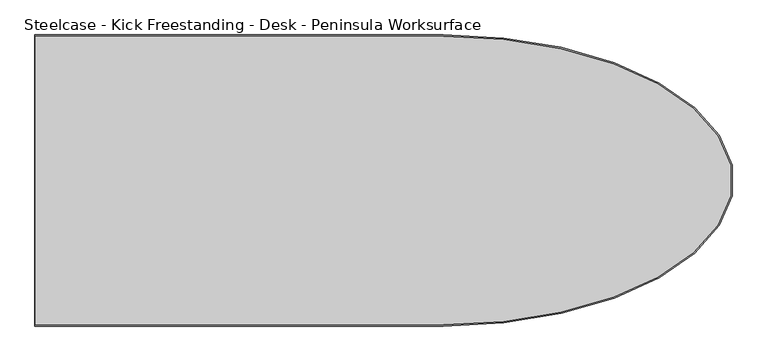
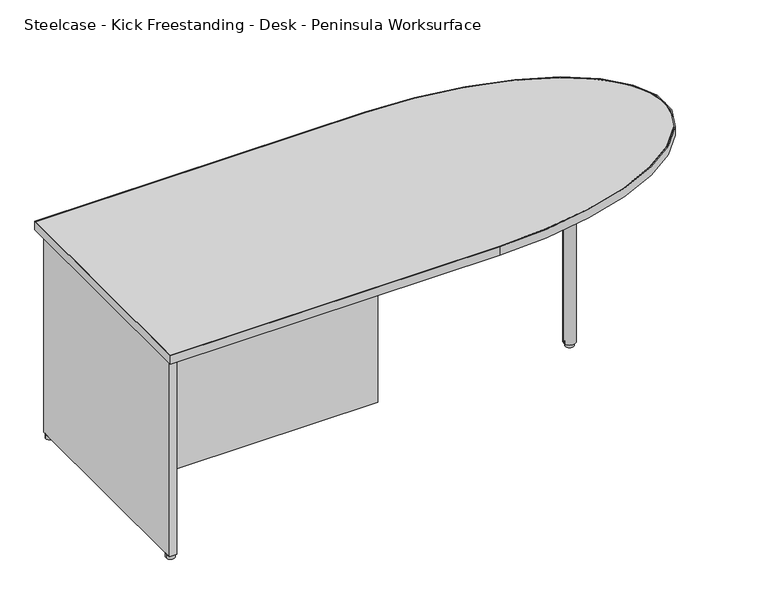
"""IFC4 building model written with IfcOpenShell, lengths in millimetres: furniture geometry, Steelcase - Kick Freestanding - Desk - Peninsula Worksurface : 30D x 72W - Full Panel."""

from ifc_helpers import new_model, si_unit, point, frame, frame_2d, origin, origin_with_axes, place, context, project, spatial, polyline, circle_curve, ellipse_curve, trimmed, segment, composite_curve, outline, extrude, source, transform, mapped, element, save
from ifc_brep_helpers import plane_surface, extruded_surface, advanced_brep


def steelcase_kick_freestanding_desk_peninsula_worksurface_40ddbeb0(model_context):
    return source(origin(), model_context, "Body", "SolidModel", [
        extrude(outline(polyline([(3680.0298423, -802.0909301), (3805.7534455, -927.8145152), (3680.0298786, -1053.5381002), (3554.3062754, -927.8145152), (3680.0298423, -802.0909301)])), frame((0.0, 0.0, 678.688), z_axis=(0.0, 0.0, 1.0), x_axis=(1.0, 0.0, 0.0)), (0.0, 0.0, 1.0), 16.256),
        advanced_brep(
        [(2163.8594425, -1308.8145152, 723.9), (3233.0978111, -1308.8145152, 723.9), (3233.0978111, -546.8145152, 723.9), (2163.8594425, -546.8145152, 723.9), (3233.0978111, -549.7863152, 723.9), (3233.0978111, -1305.8427489, 723.9), (2164.8500425, -1305.8427489, 723.9), (2164.8500425, -549.7863152, 723.9), (2163.8594425, -1308.8145152, 694.944), (2163.8594425, -546.8145152, 694.944), (3233.0978111, -546.8145152, 694.944), (3233.0978111, -1308.8145152, 694.944), (3233.0978111, -549.7863152, 694.944), (2164.8500425, -549.7863152, 694.944), (2164.8500425, -1305.8427489, 694.944), (3233.0978111, -1305.8427489, 694.944)],
        [
            (0, 1),
            (1, 2, ellipse_curve(frame((3233.0978111, -927.8145152, 723.9), z_axis=(0.0, 0.0, 1.0), x_axis=(-1.0, 0.0, 0.0)), 759.727071, 381.0)),
            (2, 3),
            (3, 0),
            (4, 5, ellipse_curve(frame((3233.0978111, -927.8145321, 723.9), z_axis=(0.0, 0.0, -1.0), x_axis=(1.0, 0.0, 0.0)), 755.65, 378.0282168)),
            (5, 6),
            (6, 7),
            (7, 4),
            (8, 9),
            (9, 10),
            (10, 11, ellipse_curve(frame((3233.0978111, -927.8145152, 694.944), z_axis=(0.0, 0.0, -1.0), x_axis=(0.0, 1.0, 0.0)), 381.0, 759.727071)),
            (11, 8),
            (12, 13),
            (13, 14),
            (14, 15),
            (15, 12, ellipse_curve(frame((3233.0978111, -927.8145321, 694.944), z_axis=(0.0, 0.0, 1.0), x_axis=(1.0, 0.0, 0.0)), 755.65, 378.0282168)),
            (0, 8),
            (11, 1),
            (10, 2),
            (9, 3),
            (4, 12),
            (15, 5),
            (14, 6),
            (13, 7),
        ],
        [
            plane_surface(frame((2163.8594425, -1308.8145152, 723.9), z_axis=(0.0, 0.0, 1.0), x_axis=(1.0, 0.0, 0.0))),
            plane_surface(frame((2163.8594425, -1308.8145152, 694.944), z_axis=(0.0, 0.0, -1.0), x_axis=(-1.0, 0.0, 0.0))),
            plane_surface(frame((2163.8594425, -1308.8145152, 723.9), z_axis=(0.0, -1.0, 0.0), x_axis=(0.0, 0.0, -1.0))),
            extruded_surface(trimmed(ellipse_curve(frame((3233.0978111, -927.8145152, 665.988), z_axis=(0.0, 0.0, 1.0), x_axis=(0.0, 1.0, 0.0)), 381.0, 759.727071), [point((3233.0978111, -1308.8145152, 665.988))], [point((3233.0978111, -546.8145152, 665.988))], True, "CARTESIAN"), (0.0, 0.0, 28.955999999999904), 28.955999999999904),
            plane_surface(frame((3233.0978111, -546.8145152, 723.9), z_axis=(0.0, 1.0, 0.0), x_axis=(0.0, 0.0, -1.0))),
            plane_surface(frame((2163.8594425, -546.8145152, 723.9), z_axis=(-1.0, 0.0, 0.0), x_axis=(0.0, 0.0, -1.0))),
            extruded_surface(trimmed(ellipse_curve(frame((3233.0978111, -927.8145321, -28.956), z_axis=(0.0, 0.0, -1.0), x_axis=(0.0, 1.0, 0.0)), 378.0282168, 755.65), [point((3233.0978111, -549.7863152, -28.956))], [point((3233.0978111, -1305.8427489, -28.956))], True, "CARTESIAN"), (0.0, 0.0, 28.956), 28.956),
            plane_surface(frame((3233.0978111, -1305.8427489, 723.9), z_axis=(0.0, 1.0, 0.0), x_axis=(0.0, 0.0, -1.0))),
            plane_surface(frame((2164.8500425, -1305.8427489, 723.9), z_axis=(1.0, 0.0, 0.0), x_axis=(0.0, 0.0, -1.0))),
            plane_surface(frame((2164.8500425, -549.7863152, 723.9), z_axis=(0.0, -1.0, 0.0), x_axis=(0.0, 0.0, -1.0))),
        ],
        [
            (0, [[1, 2, 3, 4], [5, 6, 7, 8]]),
            (1, [[9, 10, 11, 12], [13, 14, 15, 16]]),
            (2, [[-1, 17, -12, 18]]),
            (3, [[-2, -18, -11, 19]]),
            (4, [[-3, -19, -10, 20]]),
            (5, [[-4, -20, -9, -17]]),
            (6, [[-5, 21, -16, 22]]),
            (7, [[-6, -22, -15, 23]]),
            (8, [[-7, -23, -14, 24]]),
            (9, [[-8, -24, -13, -21]]),
        ],
    ),
        advanced_brep(
        [(3233.0978111, -549.7863152, 723.9), (2164.8500425, -549.7863152, 723.9), (2164.8500425, -1305.8427489, 723.9), (3233.0978111, -1305.8427489, 723.9), (3233.0978111, -549.7863152, 694.944), (3233.0978111, -1305.8427489, 694.944), (2164.8500425, -1305.8427489, 694.944), (2164.8500425, -549.7863152, 694.944)],
        [
            (0, 1),
            (1, 2),
            (2, 3),
            (3, 0, ellipse_curve(frame((3233.0978111, -927.8145321, 723.9), z_axis=(0.0, 0.0, 1.0), x_axis=(-1.0, 0.0, 0.0)), 755.65, 378.0282168)),
            (4, 5, ellipse_curve(frame((3233.0978111, -927.8145321, 694.944), z_axis=(0.0, 0.0, -1.0), x_axis=(0.0, 1.0, 0.0)), 378.0282168, 755.65)),
            (5, 6),
            (6, 7),
            (7, 4),
            (0, 4),
            (7, 1),
            (6, 2),
            (5, 3),
        ],
        [
            plane_surface(frame((2164.8500425, -549.7863152, 723.9), z_axis=(0.0, 0.0, 1.0), x_axis=(-1.0, 0.0, 0.0))),
            plane_surface(frame((2164.8500425, -549.7863152, 694.944), z_axis=(0.0, 0.0, -1.0), x_axis=(1.0, 0.0, 0.0))),
            plane_surface(frame((3233.0978111, -549.7863152, 723.9), z_axis=(0.0, 1.0, 0.0), x_axis=(0.0, 0.0, -1.0))),
            plane_surface(frame((2164.8500425, -549.7863152, 723.9), z_axis=(-1.0, 0.0, 0.0), x_axis=(0.0, 0.0, -1.0))),
            plane_surface(frame((2164.8500425, -1305.8427489, 723.9), z_axis=(0.0, -1.0, 0.0), x_axis=(0.0, 0.0, -1.0))),
            extruded_surface(trimmed(ellipse_curve(frame((3233.0978111, -927.8145321, 665.988), z_axis=(0.0, 0.0, 1.0), x_axis=(0.0, 1.0, 0.0)), 378.0282168, 755.65), [point((3233.0978111, -1305.8427489, 665.988))], [point((3233.0978111, -549.7863152, 665.988))], True, "CARTESIAN"), (0.0, 0.0, 28.955999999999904), 28.955999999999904),
        ],
        [
            (0, [[1, 2, 3, 4]]),
            (1, [[5, 6, 7, 8]]),
            (2, [[-1, 9, -8, 10]]),
            (3, [[-2, -10, -7, 11]]),
            (4, [[-3, -11, -6, 12]]),
            (5, [[-4, -12, -5, -9]]),
        ],
    ),
        extrude(outline(polyline([(2200.9434425, -940.5145152), (2200.9434425, -915.1145152), (3050.5734425, -915.1145152), (3050.5734425, -940.5145152), (2200.9434425, -940.5145152)])), frame((0.0, 0.0, 31.496), z_axis=(0.0, 0.0, 1.0), x_axis=(1.0, 0.0, 0.0)), (0.0, 0.0, 1.0), 663.448),
        extrude(outline(composite_curve([segment(trimmed(circle_curve(frame_2d((3679.9854425, -927.8063303)), 13.97), [point((3666.0154425, -927.8063303))], [point((3693.9554425, -927.8063303))], False, "CARTESIAN"), True, "CONTINUOUS"), segment(trimmed(circle_curve(frame_2d((3679.9854425, -927.8063303)), 13.97), [point((3693.9554425, -927.8063303))], [point((3666.0154425, -927.8063303))], False, "CARTESIAN"), True, "CONTINUOUS")], self_intersect=False)), origin_with_axes(), (0.0, 0.0, 1.0), 12.5222),
        extrude(outline(composite_curve([segment(trimmed(circle_curve(frame_2d((3679.9854425, -927.7998125)), 19.05), [point((3660.9354425, -927.7998125))], [point((3699.0354425, -927.7998125))], False, "CARTESIAN"), True, "CONTINUOUS"), segment(trimmed(circle_curve(frame_2d((3679.9854425, -927.7998125)), 19.05), [point((3699.0354425, -927.7998125))], [point((3660.9354425, -927.7998125))], False, "CARTESIAN"), True, "CONTINUOUS")], self_intersect=False)), frame((0.0, 0.0, 12.5222), z_axis=(0.0, 0.0, 1.0), x_axis=(1.0, 0.0, 0.0)), (0.0, 0.0, 1.0), 682.4218),
        extrude(outline(composite_curve([segment(trimmed(circle_curve(frame_2d((2188.6643434, -589.5500339)), 13.97), [point((2174.6943434, -589.5500339))], [point((2202.6343434, -589.5500339))], False, "CARTESIAN"), True, "CONTINUOUS"), segment(trimmed(circle_curve(frame_2d((2188.6643434, -589.5500339)), 13.97), [point((2202.6343434, -589.5500339))], [point((2174.6943434, -589.5500339))], False, "CARTESIAN"), True, "CONTINUOUS")], self_intersect=False)), origin_with_axes(), (0.0, 0.0, 1.0), 12.5222),
        extrude(outline(composite_curve([segment(trimmed(circle_curve(frame_2d((2188.6465467, -1265.8952821)), 13.97), [point((2174.6765467, -1265.8952821))], [point((2202.6165467, -1265.8952821))], False, "CARTESIAN"), True, "CONTINUOUS"), segment(trimmed(circle_curve(frame_2d((2188.6465467, -1265.8952821)), 13.97), [point((2202.6165467, -1265.8952821))], [point((2174.6765467, -1265.8952821))], False, "CARTESIAN"), True, "CONTINUOUS")], self_intersect=False)), origin_with_axes(), (0.0, 0.0, 1.0), 12.5222),
        extrude(outline(polyline([(2200.9434425, -574.3735161), (2200.9434425, -688.2671183), (2179.9630426, -688.2671183), (2179.9630426, -787.936716), (2200.9434425, -787.936716), (2200.9434425, -1067.6923144), (2179.9630426, -1067.6923144), (2179.9630426, -1167.3618848), (2200.9434425, -1167.3618848), (2200.9434425, -1281.2555142), (2176.5594429, -1281.2555142), (2176.5594429, -574.3735161), (2200.9434425, -574.3735161)])), frame((0.0, 0.0, 12.5222), z_axis=(0.0, 0.0, 1.0), x_axis=(1.0, 0.0, 0.0)), (0.0, 0.0, 1.0), 682.4218),
    ])


if __name__ == "__main__":
    model = new_model("IFC4")
    model_context = context("Model", 3, world=origin())
    ifc_project = project(units=[si_unit("LENGTHUNIT", "METRE", prefix="MILLI")], contexts=[model_context])
    site = spatial("IfcSite", under=ifc_project)
    building = spatial("IfcBuilding", under=site)
    placement = place(None, origin())
    steelcase_kick_freestanding_desk_peninsula_worksurface_shape = steelcase_kick_freestanding_desk_peninsula_worksurface_40ddbeb0(model_context)
    element("IfcFurniture", 1, ObjectType="Steelcase - Kick Freestanding - Desk - Peninsula Worksurface : 30D x 72W - Full Panel", at=placement, inside=building, context=model_context, shape_type="MappedRepresentation", body=[
        mapped(steelcase_kick_freestanding_desk_peninsula_worksurface_shape, transform((0.0, 0.0, 0.0), x_axis=(1.0, 0.0, 0.0), y_axis=(0.0, 1.0, 0.0), z_axis=(0.0, 0.0, 1.0))),
    ])
    save(model, "model.ifc")
